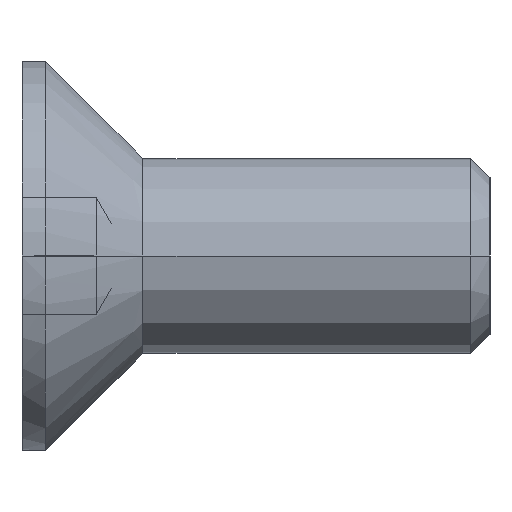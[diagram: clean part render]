
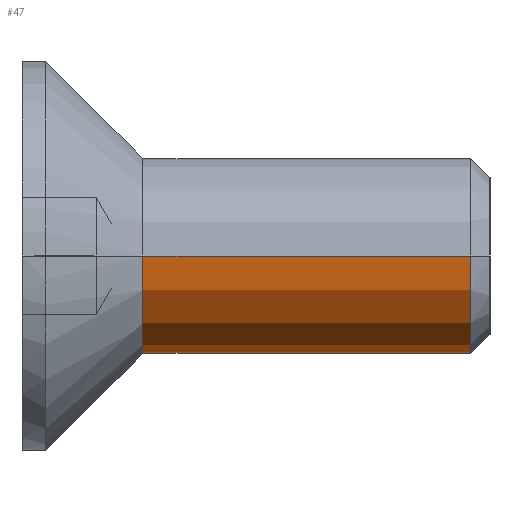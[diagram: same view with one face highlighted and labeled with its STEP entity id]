
A CAD part, left-side view. The second image highlights one B-rep face of the part: STEP entity #47.
In plain terms, the highlighted free-form (B-spline) face has degree [2, 1] with [9, 2] control points.
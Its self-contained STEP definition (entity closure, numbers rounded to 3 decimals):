
#47=ADVANCED_FACE('',(#71),#737,.T.);
#71=FACE_OUTER_BOUND('',#95,.T.);
#95=EDGE_LOOP('',(#126,#127,#128,#129));
#126=ORIENTED_EDGE('',*,*,#519,.T.);
#127=ORIENTED_EDGE('',*,*,#520,.T.);
#128=ORIENTED_EDGE('',*,*,#521,.T.);
#129=ORIENTED_EDGE('',*,*,#517,.F.);
#224=(
BOUNDED_CURVE()
B_SPLINE_CURVE(2,(#1093,#1094,#1095,#1096,#1097),.UNSPECIFIED.,.F.,.F.)
B_SPLINE_CURVE_WITH_KNOTS((3,2,3),(0.,3.927,7.854),
 .UNSPECIFIED.)
CURVE()
GEOMETRIC_REPRESENTATION_ITEM()
RATIONAL_B_SPLINE_CURVE((1.,0.707,1.,0.707,1.))
REPRESENTATION_ITEM('')
);
#225=(
BOUNDED_CURVE()
B_SPLINE_CURVE(2,(#1110,#1111,#1112,#1113,#1114),.UNSPECIFIED.,.F.,.F.)
B_SPLINE_CURVE_WITH_KNOTS((3,2,3),(0.,3.927,7.854),
 .UNSPECIFIED.)
CURVE()
GEOMETRIC_REPRESENTATION_ITEM()
RATIONAL_B_SPLINE_CURVE((1.,0.707,1.,0.707,1.))
REPRESENTATION_ITEM('')
);
#257=PCURVE('',#736,#361);
#260=PCURVE('',#737,#364);
#261=PCURVE('',#737,#365);
#262=PCURVE('',#737,#366);
#263=PCURVE('',#737,#367);
#267=PCURVE('',#738,#371);
#336=PCURVE('',#742,#440);
#338=PCURVE('',#742,#442);
#361=DEFINITIONAL_REPRESENTATION('',(#572),#1443);
#364=DEFINITIONAL_REPRESENTATION('',(#577),#1443);
#365=DEFINITIONAL_REPRESENTATION('',(#578),#1443);
#366=DEFINITIONAL_REPRESENTATION('',(#580),#1443);
#367=DEFINITIONAL_REPRESENTATION('',(#581),#1443);
#371=DEFINITIONAL_REPRESENTATION('',(#587),#1443);
#440=DEFINITIONAL_REPRESENTATION('',(#672),#1443);
#442=DEFINITIONAL_REPRESENTATION('',(#674),#1443);
#465=SURFACE_CURVE('',#224,(#257,#263),.PCURVE_S1.);
#467=SURFACE_CURVE('',#576,(#260,#336),.PCURVE_S1.);
#468=SURFACE_CURVE('',#225,(#261,#267),.PCURVE_S1.);
#469=SURFACE_CURVE('',#579,(#262,#338),.PCURVE_S1.);
#517=EDGE_CURVE('',#694,#695,#465,.T.);
#519=EDGE_CURVE('',#694,#696,#467,.T.);
#520=EDGE_CURVE('',#696,#697,#468,.T.);
#521=EDGE_CURVE('',#697,#695,#469,.T.);
#572=B_SPLINE_CURVE_WITH_KNOTS('',1,(#1098,#1099),.UNSPECIFIED.,.F.,.F.,
(2,2),(0.,7.854),.UNSPECIFIED.);
#576=B_SPLINE_CURVE_WITH_KNOTS('',1,(#1106,#1107),.UNSPECIFIED.,.F.,.F.,
(2,2),(-8.41,0.),.UNSPECIFIED.);
#577=B_SPLINE_CURVE_WITH_KNOTS('',1,(#1108,#1109),.UNSPECIFIED.,.F.,.F.,
(2,2),(-8.41,0.),.UNSPECIFIED.);
#578=B_SPLINE_CURVE_WITH_KNOTS('',1,(#1115,#1116),.UNSPECIFIED.,.F.,.F.,
(2,2),(0.,7.854),.UNSPECIFIED.);
#579=B_SPLINE_CURVE_WITH_KNOTS('',1,(#1117,#1118),.UNSPECIFIED.,.F.,.F.,
(2,2),(-8.41,0.),.UNSPECIFIED.);
#580=B_SPLINE_CURVE_WITH_KNOTS('',1,(#1119,#1120),.UNSPECIFIED.,.F.,.F.,
(2,2),(-8.41,0.),.UNSPECIFIED.);
#581=B_SPLINE_CURVE_WITH_KNOTS('',1,(#1121,#1122),.UNSPECIFIED.,.F.,.F.,
(2,2),(0.,7.854),.UNSPECIFIED.);
#587=B_SPLINE_CURVE_WITH_KNOTS('',1,(#1138,#1139),.UNSPECIFIED.,.F.,.F.,
(2,2),(0.,7.854),.UNSPECIFIED.);
#672=B_SPLINE_CURVE_WITH_KNOTS('',1,(#1376,#1377),.UNSPECIFIED.,.F.,.F.,
(2,2),(-8.41,0.),.UNSPECIFIED.);
#674=B_SPLINE_CURVE_WITH_KNOTS('',1,(#1385,#1386),.UNSPECIFIED.,.F.,.F.,
(2,2),(-8.41,0.),.UNSPECIFIED.);
#694=VERTEX_POINT('',#1040);
#695=VERTEX_POINT('',#1041);
#696=VERTEX_POINT('',#1042);
#697=VERTEX_POINT('',#1043);
#736=(
BOUNDED_SURFACE()
B_SPLINE_SURFACE(2,1,((#860,#861),(#862,#863),(#864,#865),(#866,#867),(#868,
#869),(#870,#871),(#872,#873),(#874,#875),(#876,#877)),.UNSPECIFIED.,.T.,
 .F.,.F.)
B_SPLINE_SURFACE_WITH_KNOTS((3,2,2,2,3),(2,2),(0.,1.571,3.142,
4.712,6.283),(0.,7.78),.UNSPECIFIED.)
GEOMETRIC_REPRESENTATION_ITEM()
RATIONAL_B_SPLINE_SURFACE(((1.,1.),(0.707,0.707),
(1.,1.),(0.707,0.707),(1.,1.),(0.707,
0.707),(1.,1.),(0.707,0.707),(1.,1.)))
REPRESENTATION_ITEM('')
SURFACE()
);
#737=(
BOUNDED_SURFACE()
B_SPLINE_SURFACE(2,1,((#878,#879),(#880,#881),(#882,#883),(#884,#885),(#886,
#887),(#888,#889),(#890,#891),(#892,#893),(#894,#895)),.UNSPECIFIED.,.T.,
 .F.,.F.)
B_SPLINE_SURFACE_WITH_KNOTS((3,2,2,2,3),(2,2),(0.,1.571,3.142,
4.712,6.283),(0.,10.094),.UNSPECIFIED.)
GEOMETRIC_REPRESENTATION_ITEM()
RATIONAL_B_SPLINE_SURFACE(((1.,1.),(0.707,0.707),
(1.,1.),(0.707,0.707),(1.,1.),(0.707,
0.707),(1.,1.),(0.707,0.707),(1.,1.)))
REPRESENTATION_ITEM('')
SURFACE()
);
#738=(
BOUNDED_SURFACE()
B_SPLINE_SURFACE(2,1,((#896,#897),(#898,#899),(#900,#901),(#902,#903),(#904,
#905),(#906,#907),(#908,#909),(#910,#911),(#912,#913)),.UNSPECIFIED.,.T.,
 .F.,.F.)
B_SPLINE_SURFACE_WITH_KNOTS((3,2,2,2,3),(2,2),(0.,1.571,3.142,
4.712,6.283),(0.,3.891),.UNSPECIFIED.)
GEOMETRIC_REPRESENTATION_ITEM()
RATIONAL_B_SPLINE_SURFACE(((1.,1.),(0.707,0.707),
(1.,1.),(0.707,0.707),(1.,1.),(0.707,
0.707),(1.,1.),(0.707,0.707),(1.,1.)))
REPRESENTATION_ITEM('')
SURFACE()
);
#742=(
BOUNDED_SURFACE()
B_SPLINE_SURFACE(2,1,((#981,#982),(#983,#984),(#985,#986),(#987,#988),(#989,
#990),(#991,#992),(#993,#994),(#995,#996),(#997,#998)),.UNSPECIFIED.,.T.,
 .F.,.F.)
B_SPLINE_SURFACE_WITH_KNOTS((3,2,2,2,3),(2,2),(0.,1.571,3.142,
4.712,6.283),(0.,10.094),.UNSPECIFIED.)
GEOMETRIC_REPRESENTATION_ITEM()
RATIONAL_B_SPLINE_SURFACE(((1.,1.),(0.707,0.707),
(1.,1.),(0.707,0.707),(1.,1.),(0.707,
0.707),(1.,1.),(0.707,0.707),(1.,1.)))
REPRESENTATION_ITEM('')
SURFACE()
);
#860=CARTESIAN_POINT('',(5.6,0.,0.));
#861=CARTESIAN_POINT('',(0.099,0.,5.501));
#862=CARTESIAN_POINT('',(5.6,0.,0.));
#863=CARTESIAN_POINT('',(0.099,5.501,5.501));
#864=CARTESIAN_POINT('',(5.6,0.,0.));
#865=CARTESIAN_POINT('',(0.099,5.501,0.));
#866=CARTESIAN_POINT('',(5.6,0.,0.));
#867=CARTESIAN_POINT('',(0.099,5.501,-5.501));
#868=CARTESIAN_POINT('',(5.6,0.,0.));
#869=CARTESIAN_POINT('',(0.099,0.,-5.501));
#870=CARTESIAN_POINT('',(5.6,0.,0.));
#871=CARTESIAN_POINT('',(0.099,-5.501,-5.501));
#872=CARTESIAN_POINT('',(5.6,0.,0.));
#873=CARTESIAN_POINT('',(0.099,-5.501,0.));
#874=CARTESIAN_POINT('',(5.6,0.,0.));
#875=CARTESIAN_POINT('',(0.099,-5.501,5.501));
#876=CARTESIAN_POINT('',(5.6,0.,0.));
#877=CARTESIAN_POINT('',(0.099,0.,5.501));
#878=CARTESIAN_POINT('',(2.258,0.,2.5));
#879=CARTESIAN_POINT('',(12.352,0.,2.5));
#880=CARTESIAN_POINT('',(2.258,-2.5,2.5));
#881=CARTESIAN_POINT('',(12.352,-2.5,2.5));
#882=CARTESIAN_POINT('',(2.258,-2.5,0.));
#883=CARTESIAN_POINT('',(12.352,-2.5,0.));
#884=CARTESIAN_POINT('',(2.258,-2.5,-2.5));
#885=CARTESIAN_POINT('',(12.352,-2.5,-2.5));
#886=CARTESIAN_POINT('',(2.258,0.,-2.5));
#887=CARTESIAN_POINT('',(12.352,0.,-2.5));
#888=CARTESIAN_POINT('',(2.258,2.5,-2.5));
#889=CARTESIAN_POINT('',(12.352,2.5,-2.5));
#890=CARTESIAN_POINT('',(2.258,2.5,0.));
#891=CARTESIAN_POINT('',(12.352,2.5,0.));
#892=CARTESIAN_POINT('',(2.258,2.5,2.5));
#893=CARTESIAN_POINT('',(12.352,2.5,2.5));
#894=CARTESIAN_POINT('',(2.258,0.,2.5));
#895=CARTESIAN_POINT('',(12.352,0.,2.5));
#896=CARTESIAN_POINT('',(14.01,0.,0.));
#897=CARTESIAN_POINT('',(11.258,0.,2.751));
#898=CARTESIAN_POINT('',(14.01,0.,0.));
#899=CARTESIAN_POINT('',(11.258,2.751,2.751));
#900=CARTESIAN_POINT('',(14.01,0.,0.));
#901=CARTESIAN_POINT('',(11.258,2.751,0.));
#902=CARTESIAN_POINT('',(14.01,0.,0.));
#903=CARTESIAN_POINT('',(11.258,2.751,-2.751));
#904=CARTESIAN_POINT('',(14.01,0.,0.));
#905=CARTESIAN_POINT('',(11.258,0.,-2.751));
#906=CARTESIAN_POINT('',(14.01,0.,0.));
#907=CARTESIAN_POINT('',(11.258,-2.751,-2.751));
#908=CARTESIAN_POINT('',(14.01,0.,0.));
#909=CARTESIAN_POINT('',(11.258,-2.751,0.));
#910=CARTESIAN_POINT('',(14.01,0.,0.));
#911=CARTESIAN_POINT('',(11.258,-2.751,2.751));
#912=CARTESIAN_POINT('',(14.01,0.,0.));
#913=CARTESIAN_POINT('',(11.258,0.,2.751));
#981=CARTESIAN_POINT('',(2.258,0.,-2.5));
#982=CARTESIAN_POINT('',(12.352,0.,-2.5));
#983=CARTESIAN_POINT('',(2.258,2.5,-2.5));
#984=CARTESIAN_POINT('',(12.352,2.5,-2.5));
#985=CARTESIAN_POINT('',(2.258,2.5,0.));
#986=CARTESIAN_POINT('',(12.352,2.5,0.));
#987=CARTESIAN_POINT('',(2.258,2.5,2.5));
#988=CARTESIAN_POINT('',(12.352,2.5,2.5));
#989=CARTESIAN_POINT('',(2.258,0.,2.5));
#990=CARTESIAN_POINT('',(12.352,0.,2.5));
#991=CARTESIAN_POINT('',(2.258,-2.5,2.5));
#992=CARTESIAN_POINT('',(12.352,-2.5,2.5));
#993=CARTESIAN_POINT('',(2.258,-2.5,0.));
#994=CARTESIAN_POINT('',(12.352,-2.5,0.));
#995=CARTESIAN_POINT('',(2.258,-2.5,-2.5));
#996=CARTESIAN_POINT('',(12.352,-2.5,-2.5));
#997=CARTESIAN_POINT('',(2.258,0.,-2.5));
#998=CARTESIAN_POINT('',(12.352,0.,-2.5));
#1040=CARTESIAN_POINT('',(3.1,2.5,0.));
#1041=CARTESIAN_POINT('',(3.1,-2.5,0.));
#1042=CARTESIAN_POINT('',(11.51,2.5,0.));
#1043=CARTESIAN_POINT('',(11.51,-2.5,0.));
#1093=CARTESIAN_POINT('',(3.1,2.5,0.));
#1094=CARTESIAN_POINT('',(3.1,2.5,-2.5));
#1095=CARTESIAN_POINT('',(3.1,0.,-2.5));
#1096=CARTESIAN_POINT('',(3.1,-2.5,-2.5));
#1097=CARTESIAN_POINT('',(3.1,-2.5,0.));
#1098=CARTESIAN_POINT('',(1.571,3.536));
#1099=CARTESIAN_POINT('',(4.712,3.536));
#1106=CARTESIAN_POINT('',(3.1,2.5,0.));
#1107=CARTESIAN_POINT('',(11.51,2.5,0.));
#1108=CARTESIAN_POINT('',(4.712,0.842));
#1109=CARTESIAN_POINT('',(4.712,9.252));
#1110=CARTESIAN_POINT('',(11.51,2.5,0.));
#1111=CARTESIAN_POINT('',(11.51,2.5,-2.5));
#1112=CARTESIAN_POINT('',(11.51,0.,-2.5));
#1113=CARTESIAN_POINT('',(11.51,-2.5,-2.5));
#1114=CARTESIAN_POINT('',(11.51,-2.5,0.));
#1115=CARTESIAN_POINT('',(4.712,9.252));
#1116=CARTESIAN_POINT('',(1.571,9.252));
#1117=CARTESIAN_POINT('',(11.51,-2.5,0.));
#1118=CARTESIAN_POINT('',(3.1,-2.5,0.));
#1119=CARTESIAN_POINT('',(1.571,9.252));
#1120=CARTESIAN_POINT('',(1.571,0.842));
#1121=CARTESIAN_POINT('',(4.712,0.842));
#1122=CARTESIAN_POINT('',(1.571,0.842));
#1138=CARTESIAN_POINT('',(1.571,3.536));
#1139=CARTESIAN_POINT('',(4.712,3.536));
#1376=CARTESIAN_POINT('',(1.571,0.842));
#1377=CARTESIAN_POINT('',(1.571,9.252));
#1385=CARTESIAN_POINT('',(4.712,9.252));
#1386=CARTESIAN_POINT('',(4.712,0.842));
#1443=(
GEOMETRIC_REPRESENTATION_CONTEXT(2)
PARAMETRIC_REPRESENTATION_CONTEXT()
REPRESENTATION_CONTEXT('pspace','')
);
